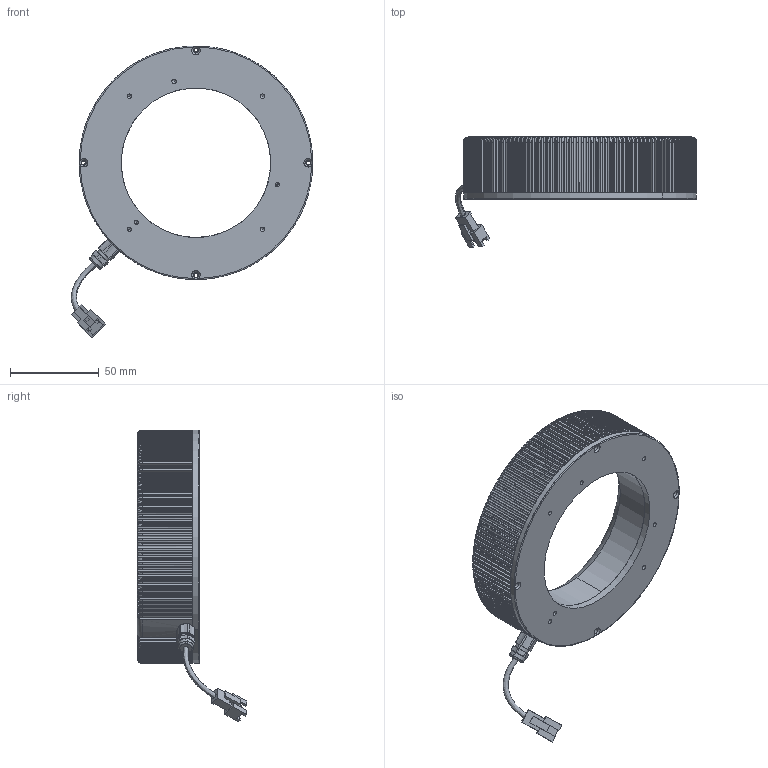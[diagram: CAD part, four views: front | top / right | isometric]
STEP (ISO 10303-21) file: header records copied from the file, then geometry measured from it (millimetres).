
FILE_DESCRIPTION (( 'STEP AP214' ), '1' );
FILE_NAME ('HPD2-00-130-1-W-24V ASSEMBLY.STEP', '2018-01-19T04:23:03', ( '' ), ( '' ), 'SwSTEP 2.0', 'SolidWorks 2016', '' );
FILE_SCHEMA (( 'AUTOMOTIVE_DESIGN' ));
Length unit declared in the file: millimetre
Products named in the file (13): HPD2-00-130-X-X-24V-BUSH; 24V CABLE___; 24V CONNECTER; CABLE 3MM; CANNET SHOT; DLR3-45-130-BASE PLATE; DLR3-60-130 PCBA; PCB PAD; GR PSLR31.13 (6V); DLR2-60-120-PCB; HPD2-00-130-DIFFUSER SHAPE; DLR3-45-130; HPD2-00-130-1-W-24V ASSEMBLY
Assembly tree (84 placements, depth 3):
  HPD2-00-130-1-W-24V ASSEMBLY
    DLR3-45-130
    HPD2-00-130-DIFFUSER SHAPE
    DLR3-60-130 PCBA
      DLR2-60-120-PCB
      GR PSLR31.13 (6V)  x72
      PCB PAD
    DLR3-45-130-BASE PLATE
    CANNET SHOT
    24V CABLE___
      CABLE 3MM
      24V CONNECTER
      CANNET SHOT
    HPD2-00-130-X-X-24V-BUSH
Bounding box: 135.94 x 61.93 x 164.44 mm (x, y, z)
Volume: 119792 mm3; surface area: 107040.9 mm2
Topology: 82 solids, 82 shells, 4630 faces, 12434 edges, 8261 vertices
Faces by surface type: plane 2462, cylinder 2124, cone 22, torus 14, bspline 8
Entity records: 51508 total; most frequent: CARTESIAN_POINT 16246, ORIENTED_EDGE 7552, DIRECTION 6778, EDGE_CURVE 3776, AXIS2_PLACEMENT_3D 2519, VERTEX_POINT 2503, LINE 1740, VECTOR 1740
